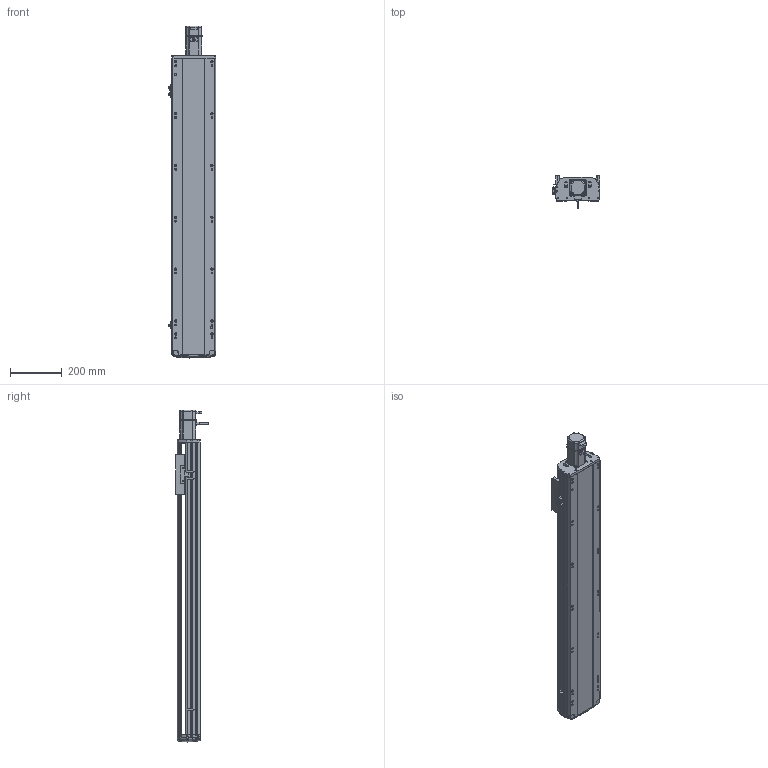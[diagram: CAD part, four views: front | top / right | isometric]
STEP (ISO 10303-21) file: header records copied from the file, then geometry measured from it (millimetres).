
FILE_DESCRIPTION (( 'STEP AP214' ), '1' );
FILE_NAME ('RTH17-XX-900-E-M40-C4.STEP', '2025-10-24T05:43:11', ( '' ), ( '' ), 'SwSTEP 2.0', 'SolidWorks 2018', '' );
FILE_SCHEMA (( 'AUTOMOTIVE_DESIGN' ));
Length unit declared in the file: millimetre
Products named in the file (9): N_RTH17-E-011底座^RTH17-XX-XX-E-M40-C4（方程式）; N_RTH17-E-008-P40电机板^RTH17-XX-XX-E-M40-C4（方程式）; N_RTH17-E-007上盖^RTH17-XX-XX-E-M40-C4（方程式）; N_M40^RTH17-XX-XX-E-M40-C4（方程式）; RTH17-XX-900-E-M40-C4; N_OMRON EE-SX672 換覜ん^RTH17-XX-XX-E-M40-C4ㄗ源最宒ㄘ; N_RTH17-E-004丝杆螺母连接座^RTH17-XX-XX-E-M40-C4（方程式）; N_RTH17-GY-001P^RTH17-XX-XX-E-M40-C4（方程式）; N_RTH-BL-012 感应片(外置)^RTH17-XX-XX-E-M40-C4（方程式）
Assembly tree (10 placements, depth 2):
  RTH17-XX-900-E-M40-C4
    N_RTH17-E-011底座^RTH17-XX-XX-E-M40-C4（方程式）
    N_RTH17-E-007上盖^RTH17-XX-XX-E-M40-C4（方程式）
    N_RTH17-E-008-P40电机板^RTH17-XX-XX-E-M40-C4（方程式）
    N_OMRON EE-SX672 換覜ん^RTH17-XX-XX-E-M40-C4ㄗ源最宒ㄘ  x3
    N_RTH-BL-012 感应片(外置)^RTH17-XX-XX-E-M40-C4（方程式）
    N_RTH17-E-004丝杆螺母连接座^RTH17-XX-XX-E-M40-C4（方程式）
    N_RTH17-GY-001P^RTH17-XX-XX-E-M40-C4（方程式）
    N_M40^RTH17-XX-XX-E-M40-C4（方程式）
Bounding box: 183.5 x 127 x 1280.69 mm (x, y, z)
Volume: 9147207.8 mm3; surface area: 1223288 mm2
Topology: 9 solids, 11 shells, 1697 faces, 4765 edges, 3110 vertices
Faces by surface type: plane 831, cylinder 499, bspline 330, cone 28, torus 9
Entity records: 50333 total; most frequent: CARTESIAN_POINT 20032, ORIENTED_EDGE 6554, DIRECTION 5445, EDGE_CURVE 3281, VERTEX_POINT 2146, AXIS2_PLACEMENT_3D 1816, VECTOR 1813, LINE 1813
